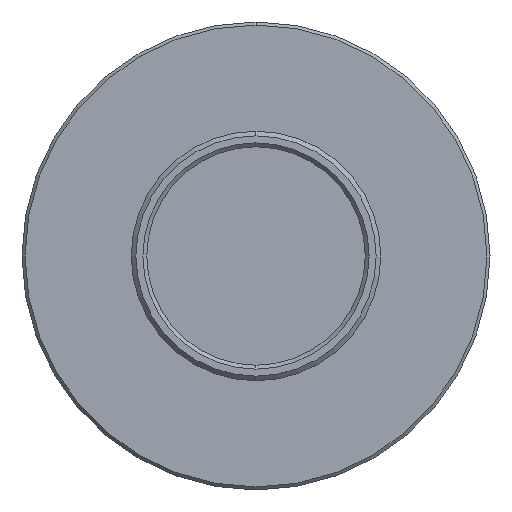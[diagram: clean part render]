
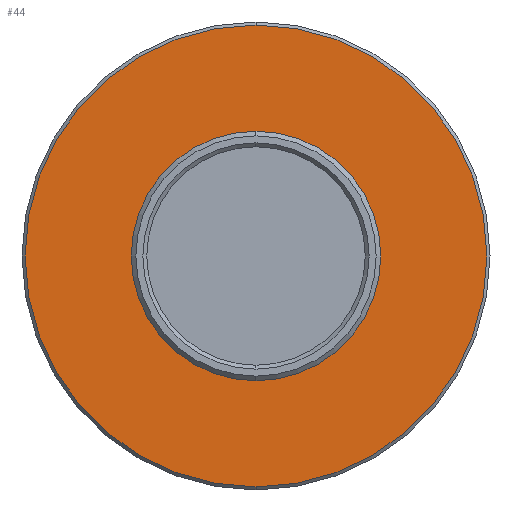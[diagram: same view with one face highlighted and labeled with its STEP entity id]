
A CAD part, left-side view. The second image highlights one B-rep face of the part: STEP entity #44.
In plain terms, the highlighted planar face has unit normal (-1, 0, 0).
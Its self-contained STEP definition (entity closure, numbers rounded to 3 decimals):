
#10 = EDGE_LOOP ( 'NONE', ( #69, #973 ) ) ;
#26 = DIRECTION ( 'NONE',  ( 0., 0., -1. ) ) ;
#43 = ORIENTED_EDGE ( 'NONE', *, *, #576, .F. ) ;
#44 = ADVANCED_FACE ( 'NONE', ( #1153, #312 ), #388, .T. ) ;
#69 = ORIENTED_EDGE ( 'NONE', *, *, #1284, .T. ) ;
#192 = VERTEX_POINT ( 'NONE', #982 ) ;
#195 = CIRCLE ( 'NONE', #1179, 14.8 ) ;
#233 = AXIS2_PLACEMENT_3D ( 'NONE', #1011, #574, #662 ) ;
#258 = DIRECTION ( 'NONE',  ( 1., 0., 0. ) ) ;
#260 = EDGE_CURVE ( 'NONE', #1306, #420, #990, .T. ) ;
#312 = FACE_OUTER_BOUND ( 'NONE', #677, .T. ) ;
#328 = ORIENTED_EDGE ( 'NONE', *, *, #260, .F. ) ;
#361 = DIRECTION ( 'NONE',  ( 1., 0., 0. ) ) ;
#370 = CARTESIAN_POINT ( 'NONE',  ( 283.321, -257.425, 0. ) ) ;
#388 = PLANE ( 'NONE',  #645 ) ;
#420 = VERTEX_POINT ( 'NONE', #1299 ) ;
#456 = DIRECTION ( 'NONE',  ( 0., 0., -1. ) ) ;
#574 = DIRECTION ( 'NONE',  ( 1., 0., 0. ) ) ;
#576 = EDGE_CURVE ( 'NONE', #420, #1306, #195, .T. ) ;
#606 = CARTESIAN_POINT ( 'NONE',  ( 283.321, -249.425, 0. ) ) ;
#607 = CIRCLE ( 'NONE', #1206, 8. ) ;
#611 = DIRECTION ( 'NONE',  ( -1., 0., 0. ) ) ;
#645 = AXIS2_PLACEMENT_3D ( 'NONE', #606, #611, #928 ) ;
#662 = DIRECTION ( 'NONE',  ( 0., 0., -1. ) ) ;
#677 = EDGE_LOOP ( 'NONE', ( #328, #43 ) ) ;
#892 = VERTEX_POINT ( 'NONE', #1069 ) ;
#928 = DIRECTION ( 'NONE',  ( 0., 0., 1. ) ) ;
#973 = ORIENTED_EDGE ( 'NONE', *, *, #1350, .T. ) ;
#982 = CARTESIAN_POINT ( 'NONE',  ( 283.321, -257.425, 8. ) ) ;
#987 = CARTESIAN_POINT ( 'NONE',  ( 283.321, -257.425, -14.8 ) ) ;
#990 = CIRCLE ( 'NONE', #1022, 14.8 ) ;
#993 = CARTESIAN_POINT ( 'NONE',  ( 283.321, -257.425, 0. ) ) ;
#1011 = CARTESIAN_POINT ( 'NONE',  ( 283.321, -257.425, 0. ) ) ;
#1022 = AXIS2_PLACEMENT_3D ( 'NONE', #993, #1325, #26 ) ;
#1069 = CARTESIAN_POINT ( 'NONE',  ( 283.321, -257.425, -8. ) ) ;
#1114 = CARTESIAN_POINT ( 'NONE',  ( 283.321, -257.425, 0. ) ) ;
#1122 = CIRCLE ( 'NONE', #233, 8. ) ;
#1136 = DIRECTION ( 'NONE',  ( 0., 0., -1. ) ) ;
#1153 = FACE_BOUND ( 'NONE', #10, .T. ) ;
#1179 = AXIS2_PLACEMENT_3D ( 'NONE', #370, #258, #1136 ) ;
#1206 = AXIS2_PLACEMENT_3D ( 'NONE', #1114, #361, #456 ) ;
#1284 = EDGE_CURVE ( 'NONE', #892, #192, #607, .T. ) ;
#1299 = CARTESIAN_POINT ( 'NONE',  ( 283.321, -257.425, 14.8 ) ) ;
#1306 = VERTEX_POINT ( 'NONE', #987 ) ;
#1325 = DIRECTION ( 'NONE',  ( 1., 0., 0. ) ) ;
#1350 = EDGE_CURVE ( 'NONE', #192, #892, #1122, .T. ) ;
